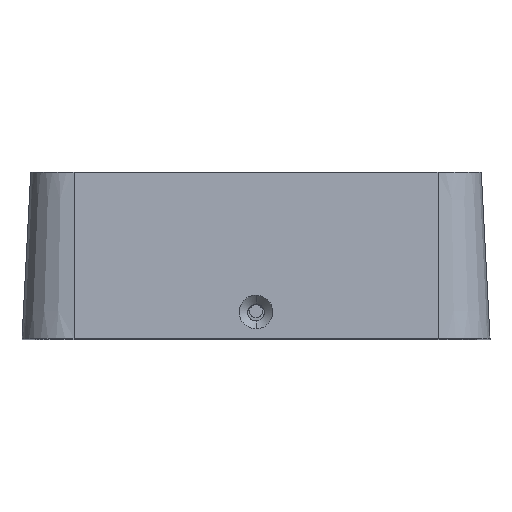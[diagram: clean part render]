
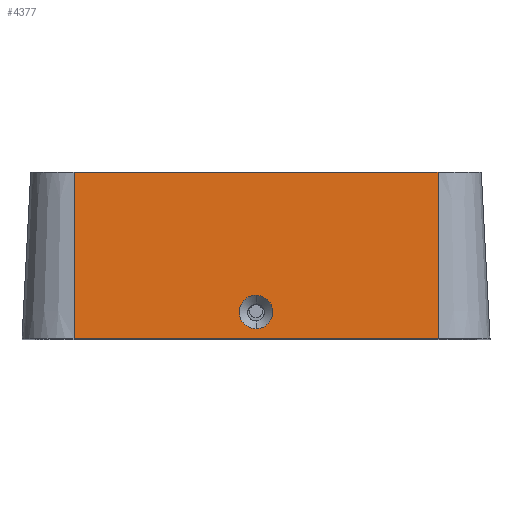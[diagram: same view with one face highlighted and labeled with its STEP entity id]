
A CAD part, top view. The second image highlights one B-rep face of the part: STEP entity #4377.
In plain terms, the highlighted planar face has unit normal (0, 0.052, 0.999).
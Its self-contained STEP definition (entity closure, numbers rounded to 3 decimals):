
#21 = CARTESIAN_POINT ( 'NONE',  ( -0.422, 1.869, 79.902 ) ) ;
#367 = CARTESIAN_POINT ( 'NONE',  ( 0.423, 8.31, 79.564 ) ) ;
#568 = CARTESIAN_POINT ( 'NONE',  ( 35., 0., 80. ) ) ;
#738 = EDGE_CURVE ( 'NONE', #13645, #2901, #3958, .T. ) ;
#1219 = CARTESIAN_POINT ( 'NONE',  ( -1.623, 2.276, 79.881 ) ) ;
#1551 = CARTESIAN_POINT ( 'NONE',  ( 3.221, 5.512, 79.711 ) ) ;
#1591 = CARTESIAN_POINT ( 'NONE',  ( -2.814, 3.467, 79.818 ) ) ;
#1700 = VECTOR ( 'NONE', #8464, 1000. ) ;
#1808 = CARTESIAN_POINT ( 'NONE',  ( -3.221, 4.667, 79.755 ) ) ;
#1918 = CARTESIAN_POINT ( 'NONE',  ( 35., 0., 80. ) ) ;
#2812 = FACE_OUTER_BOUND ( 'NONE', #6335, .T. ) ;
#2901 = VERTEX_POINT ( 'NONE', #11986 ) ;
#2916 = CARTESIAN_POINT ( 'NONE',  ( -1.979, 7.666, 79.598 ) ) ;
#3023 = PLANE ( 'NONE',  #8521 ) ;
#3530 = CARTESIAN_POINT ( 'NONE',  ( 2.814, 6.712, 79.648 ) ) ;
#3606 = CARTESIAN_POINT ( 'NONE',  ( 0.842, 1.952, 79.898 ) ) ;
#3673 = CARTESIAN_POINT ( 'NONE',  ( 1.979, 7.666, 79.598 ) ) ;
#3735 = ORIENTED_EDGE ( 'NONE', *, *, #5465, .F. ) ;
#3784 = CARTESIAN_POINT ( 'NONE',  ( 0., 8.31, 79.564 ) ) ;
#3866 = CARTESIAN_POINT ( 'NONE',  ( -2.814, 6.712, 79.648 ) ) ;
#3940 = CARTESIAN_POINT ( 'NONE',  ( -3.137, 4.247, 79.777 ) ) ;
#3958 = B_SPLINE_CURVE_WITH_KNOTS ( 'NONE', 3,
 ( #10157, #21, #4670, #1219, #13050, #10546, #1591, #3940, #1808, #14152, #9497, #3866, #9643, #2916, #4892, #8449, #5184, #3784 ),
 .UNSPECIFIED., .F., .F.,
 ( 4, 2, 2, 2, 2, 2, 2, 2, 4 ),
 ( 0.5, 0.563, 0.625, 0.688, 0.75, 0.813, 0.875, 0.938, 1. ),
 .UNSPECIFIED. ) ;
#4176 = B_SPLINE_CURVE_WITH_KNOTS ( 'NONE', 3,
 ( #9228, #367, #8259, #9157, #3673, #10573, #3530, #13746, #1551, #12791, #8040, #9383, #12495, #7088, #11386, #3606, #12571, #11463 ),
 .UNSPECIFIED., .F., .F.,
 ( 4, 2, 2, 2, 2, 2, 2, 2, 4 ),
 ( 0., 0.062, 0.125, 0.187, 0.25, 0.312, 0.375, 0.437, 0.5 ),
 .UNSPECIFIED. ) ;
#4377 = ADVANCED_FACE ( 'NONE', ( #10951, #2812 ), #3023, .T. ) ;
#4399 = VERTEX_POINT ( 'NONE', #1918 ) ;
#4625 = EDGE_CURVE ( 'NONE', #2901, #13645, #4176, .T. ) ;
#4670 = CARTESIAN_POINT ( 'NONE',  ( -0.842, 1.953, 79.898 ) ) ;
#4769 = VECTOR ( 'NONE', #9804, 1000. ) ;
#4808 = VERTEX_POINT ( 'NONE', #14609 ) ;
#4892 = CARTESIAN_POINT ( 'NONE',  ( -1.623, 7.904, 79.586 ) ) ;
#4928 = EDGE_LOOP ( 'NONE', ( #13954, #14517 ) ) ;
#5106 = DIRECTION ( 'NONE',  ( 0., -0.999, 0.052 ) ) ;
#5184 = CARTESIAN_POINT ( 'NONE',  ( -0.423, 8.31, 79.564 ) ) ;
#5271 = EDGE_CURVE ( 'NONE', #13643, #4808, #11135, .T. ) ;
#5413 = VERTEX_POINT ( 'NONE', #8515 ) ;
#5465 = EDGE_CURVE ( 'NONE', #4808, #4399, #9572, .T. ) ;
#5974 = ORIENTED_EDGE ( 'NONE', *, *, #6283, .T. ) ;
#6093 = CARTESIAN_POINT ( 'NONE',  ( 35., 0., 80. ) ) ;
#6283 = EDGE_CURVE ( 'NONE', #5413, #4399, #14028, .T. ) ;
#6335 = EDGE_LOOP ( 'NONE', ( #5974, #3735, #13899, #10898 ) ) ;
#7088 = CARTESIAN_POINT ( 'NONE',  ( 1.979, 2.514, 79.868 ) ) ;
#7269 = CARTESIAN_POINT ( 'NONE',  ( -35., 0., 80. ) ) ;
#7398 = DIRECTION ( 'NONE',  ( 0., 0.052, 0.999 ) ) ;
#7533 = DIRECTION ( 'NONE',  ( 0., -0.999, 0.052 ) ) ;
#8040 = CARTESIAN_POINT ( 'NONE',  ( 3.137, 4.247, 79.777 ) ) ;
#8259 = CARTESIAN_POINT ( 'NONE',  ( 0.842, 8.227, 79.569 ) ) ;
#8449 = CARTESIAN_POINT ( 'NONE',  ( -0.842, 8.227, 79.569 ) ) ;
#8464 = DIRECTION ( 'NONE',  ( 1., 0., 0. ) ) ;
#8515 = CARTESIAN_POINT ( 'NONE',  ( -35., 0., 80. ) ) ;
#8521 = AXIS2_PLACEMENT_3D ( 'NONE', #13024, #7398, #7533 ) ;
#8742 = EDGE_CURVE ( 'NONE', #13643, #5413, #10824, .T. ) ;
#9082 = CARTESIAN_POINT ( 'NONE',  ( 0., 1.869, 79.902 ) ) ;
#9157 = CARTESIAN_POINT ( 'NONE',  ( 1.623, 7.904, 79.586 ) ) ;
#9228 = CARTESIAN_POINT ( 'NONE',  ( 0., 8.31, 79.564 ) ) ;
#9383 = CARTESIAN_POINT ( 'NONE',  ( 2.814, 3.467, 79.818 ) ) ;
#9497 = CARTESIAN_POINT ( 'NONE',  ( -3.137, 5.932, 79.689 ) ) ;
#9572 = LINE ( 'NONE', #6093, #13074 ) ;
#9643 = CARTESIAN_POINT ( 'NONE',  ( -2.576, 7.068, 79.63 ) ) ;
#9804 = DIRECTION ( 'NONE',  ( 1., 0., 0. ) ) ;
#9870 = CARTESIAN_POINT ( 'NONE',  ( -35., 32., 78.323 ) ) ;
#10157 = CARTESIAN_POINT ( 'NONE',  ( 0., 1.869, 79.902 ) ) ;
#10346 = CARTESIAN_POINT ( 'NONE',  ( -35., 32., 78.323 ) ) ;
#10546 = CARTESIAN_POINT ( 'NONE',  ( -2.576, 3.111, 79.837 ) ) ;
#10573 = CARTESIAN_POINT ( 'NONE',  ( 2.576, 7.069, 79.63 ) ) ;
#10824 = LINE ( 'NONE', #7269, #11546 ) ;
#10898 = ORIENTED_EDGE ( 'NONE', *, *, #8742, .T. ) ;
#10951 = FACE_BOUND ( 'NONE', #4928, .T. ) ;
#11135 = LINE ( 'NONE', #9870, #4769 ) ;
#11386 = CARTESIAN_POINT ( 'NONE',  ( 1.623, 2.276, 79.881 ) ) ;
#11463 = CARTESIAN_POINT ( 'NONE',  ( 0., 1.869, 79.902 ) ) ;
#11546 = VECTOR ( 'NONE', #5106, 1000. ) ;
#11986 = CARTESIAN_POINT ( 'NONE',  ( 0., 8.31, 79.564 ) ) ;
#12495 = CARTESIAN_POINT ( 'NONE',  ( 2.576, 3.111, 79.837 ) ) ;
#12571 = CARTESIAN_POINT ( 'NONE',  ( 0.422, 1.869, 79.902 ) ) ;
#12791 = CARTESIAN_POINT ( 'NONE',  ( 3.221, 4.667, 79.755 ) ) ;
#12975 = DIRECTION ( 'NONE',  ( 0., -0.999, 0.052 ) ) ;
#13024 = CARTESIAN_POINT ( 'NONE',  ( 35., 0., 80. ) ) ;
#13050 = CARTESIAN_POINT ( 'NONE',  ( -1.979, 2.514, 79.868 ) ) ;
#13074 = VECTOR ( 'NONE', #12975, 1000. ) ;
#13643 = VERTEX_POINT ( 'NONE', #10346 ) ;
#13645 = VERTEX_POINT ( 'NONE', #9082 ) ;
#13746 = CARTESIAN_POINT ( 'NONE',  ( 3.137, 5.932, 79.689 ) ) ;
#13899 = ORIENTED_EDGE ( 'NONE', *, *, #5271, .F. ) ;
#13954 = ORIENTED_EDGE ( 'NONE', *, *, #4625, .T. ) ;
#14028 = LINE ( 'NONE', #568, #1700 ) ;
#14152 = CARTESIAN_POINT ( 'NONE',  ( -3.221, 5.512, 79.711 ) ) ;
#14517 = ORIENTED_EDGE ( 'NONE', *, *, #738, .T. ) ;
#14609 = CARTESIAN_POINT ( 'NONE',  ( 35., 32., 78.323 ) ) ;
